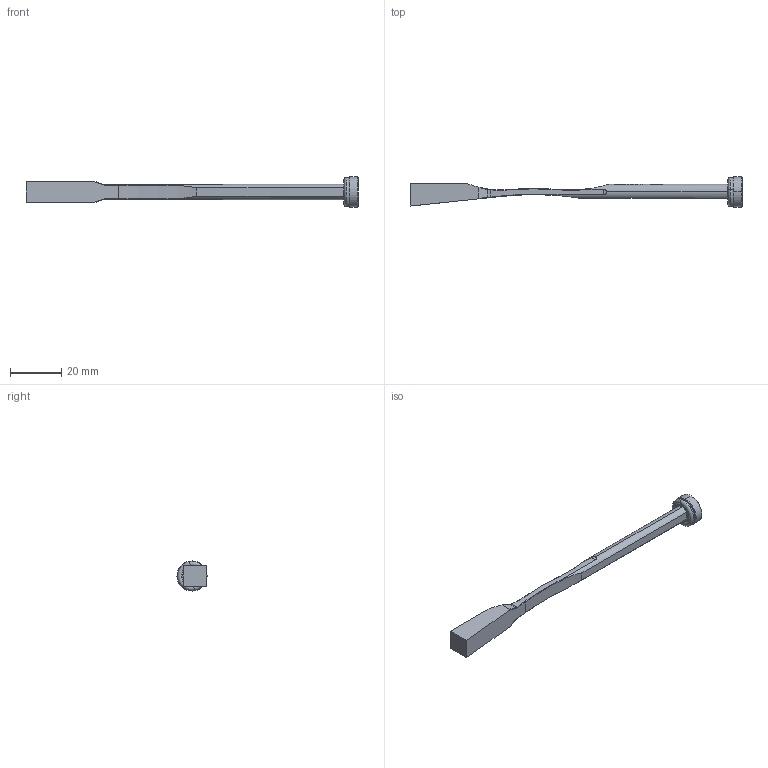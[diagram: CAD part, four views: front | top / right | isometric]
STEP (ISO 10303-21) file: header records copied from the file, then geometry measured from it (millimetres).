
FILE_DESCRIPTION (( 'STEP AP214' ), '1' );
FILE_NAME ('pw060822_injection.STEP', '2021-07-15T09:06:42', ( '' ), ( '' ), 'SwSTEP 2.0', 'SolidWorks 2019', '' );
FILE_SCHEMA (( 'AUTOMOTIVE_DESIGN' ));
Length unit declared in the file: millimetre
Products named in the file (5): 3JT7.5X2X11.5; 1DIN7991416_DIN 7991 - M4 x 16 --- 16C; 9FP1205M4; pw060822_injection; 9PW060822 TANCADA
Assembly tree (4 placements, depth 2):
  pw060822_injection
    9PW060822 TANCADA
    9FP1205M4
    1DIN7991416_DIN 7991 - M4 x 16 --- 16C
    3JT7.5X2X11.5
Bounding box: 130 x 11.8 x 11.8 mm (x, y, z)
Volume: 4107.4 mm3; surface area: 3990.3 mm2
Topology: 4 solids, 4 shells, 442 faces, 1173 edges, 764 vertices
Faces by surface type: bspline 253, plane 108, cylinder 51, cone 16, torus 14
Entity records: 25197 total; most frequent: CARTESIAN_POINT 16284, ORIENTED_EDGE 2338, EDGE_CURVE 1169, B_SPLINE_CURVE_WITH_KNOTS 832, DIRECTION 828, VERTEX_POINT 764, EDGE_LOOP 475, FACE_OUTER_BOUND 442
